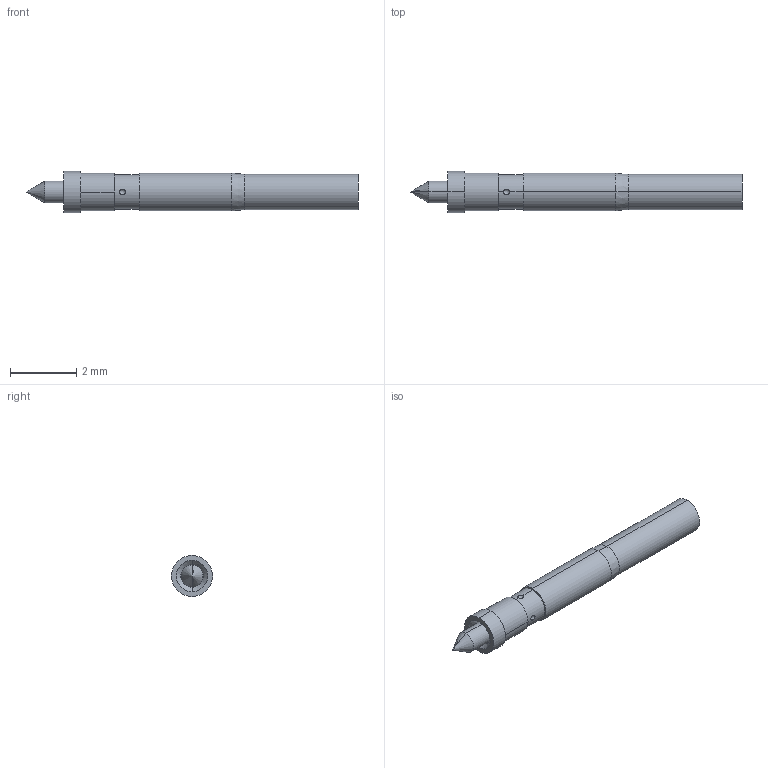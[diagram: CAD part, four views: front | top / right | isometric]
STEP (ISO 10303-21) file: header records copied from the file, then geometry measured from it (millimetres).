
FILE_DESCRIPTION (( 'STEP AP214' ), '1' );
FILE_NAME ('PC9BS.STEP', '2021-07-13T12:48:58', ( '' ), ( '' ), 'SwSTEP 2.0', 'SolidWorks 2021', '' );
FILE_SCHEMA (( 'AUTOMOTIVE_DESIGN' ));
Length unit declared in the file: millimetre
Products named in the file (5): 6460_-0278-G; 2160-2_-Gdimpled; PC9BS; 1874-3; 2182-0_display
Assembly tree (4 placements, depth 2):
  PC9BS
    1874-3
    2182-0_display
    2160-2_-Gdimpled
    6460_-0278-G
Bounding box: 10.03 x 1.24 x 1.24 mm (x, y, z)
Volume: 6.4 mm3; surface area: 71 mm2
Topology: 4 solids, 4 shells, 70 faces, 156 edges, 94 vertices
Faces by surface type: bspline 24, cone 20, cylinder 18, plane 8
Entity records: 5178 total; most frequent: CARTESIAN_POINT 3605, ORIENTED_EDGE 296, DIRECTION 280, EDGE_CURVE 148, AXIS2_PLACEMENT_3D 119, VERTEX_POINT 94, EDGE_LOOP 80, ADVANCED_FACE 70
